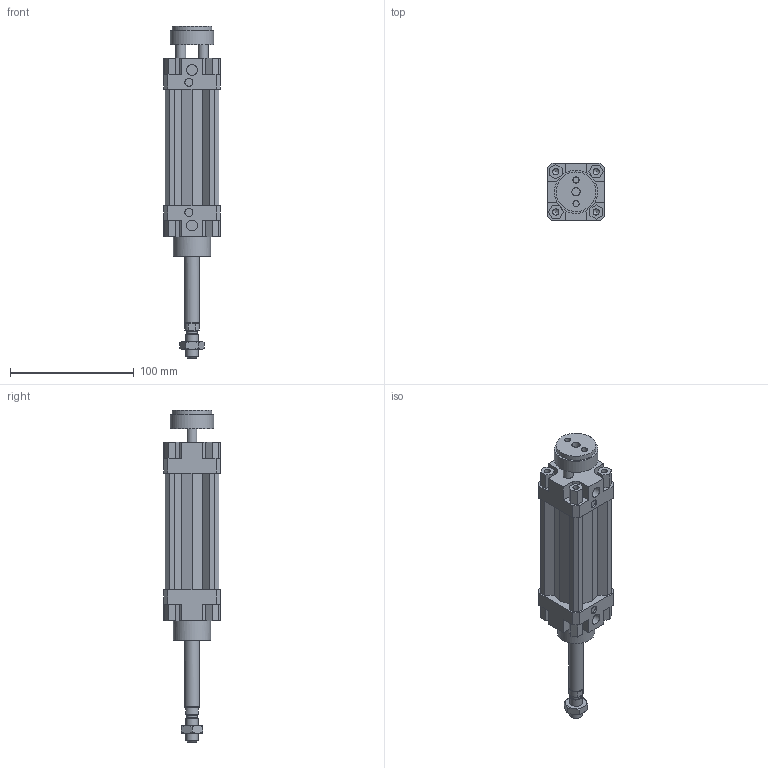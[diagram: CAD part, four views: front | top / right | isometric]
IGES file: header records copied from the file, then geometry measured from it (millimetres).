
Global section: file name: 132#_032_0050_02; native system: Autodesk Inventor 2014; preprocessor: unknown; author: A. Manieri; date: 20161006.154624; units: millimetre
Bounding box: 46 x 46 x 268 mm (x, y, z)
Volume: 225598.8 mm3; surface area: 72785.2 mm2
Topology: 3 solids, 3 shells, 227 faces, 605 edges, 405 vertices
Faces by surface type: bspline 227
